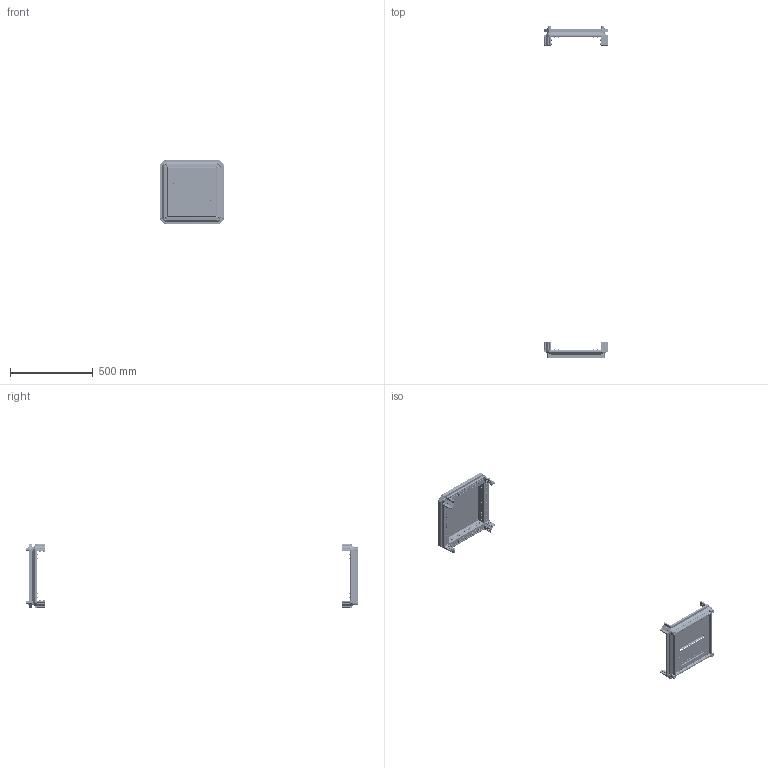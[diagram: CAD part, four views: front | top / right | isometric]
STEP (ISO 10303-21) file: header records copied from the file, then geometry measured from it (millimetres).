
FILE_DESCRIPTION (( 'STEP AP203' ), '1' );
FILE_NAME ('MA1.101.040420.00.00 AleSta-RB44 Êîìïëåêò êðûøà è îñíîâàíèå.STEP', '2025-02-19T13:55:26', ( '' ), ( '' ), 'SwSTEP 2.0', 'SolidWorks 2021', '' );
FILE_SCHEMA (( 'CONFIG_CONTROL_DESIGN' ));
Length unit declared in the file: millimetre
Products named in the file (18): Óïëîòíèòåëü ïàíåëè íèæíåé_400å400; MA1.101.040420.00.00 AleSta-RB44 Êîìïëåêò êðûøà è îñíîâàíèå; Øïèëüêà Ì6õ12_˜¯¨«ìª  Œ6å12; ﾘ琺矜 65ﾃ 019 ﾃﾎﾑﾒ 6402-70_12; Øàéáà ñòîïîðíàÿ ñ íàðóæíûìè çóáöàìè SCHNORR, òèï VS öèíêîâûå õëîïüÿ Ì6 O6,4 ART 88121_Œ6; MA1.101.060620.10.00 Êðûøà 600x600_400å400; ﾇﾀﾊﾋﾅﾏﾊﾀ ﾃﾀﾅﾗﾍﾀﾟ ﾘﾅﾑﾒﾈﾃﾐﾀﾍﾍﾀﾟ ﾑ ﾓﾌﾅﾍﾜﾘﾅﾍﾍﾛﾌ ﾁﾎﾐﾒﾎﾌ M4 X 11 (0.5-2.5 ﾌﾌ) HEX U-S ﾖﾈﾍﾊ; Âèíò ðåçüáîâûäàâëèâàþùèé Ì6õ12 DIN 7500E_Œ6å10; Âèíò_ðåçüáîâûäàâëèâàþùèé_Ì5õ12_DIN 7500E_Œ5å12; MA1.101.060620.20.02 Çàêðûòèå íèæíåé ïàíåëè 600õ600_400å400; MA1.101.060620.20.00 Íèæíÿÿ ïàíåëü 600õ600_400å400; Âèíò ñ âí. øåñòèãðàííèêîì M12 DIN912_•30; ﾘ琺矜 01.019 ﾃﾎﾑﾒ11371-78_12; 7380-2 ISO Âèíòû ñ ïîëóêðóãëîé ãîëîâêîé ñ ôëàíöåì ñ âíóòðåííèì øåñòèãðàííèêîì Ì4õ10; MA1.101.060620.00.02 Ïðîôèëü ïîïåðå÷íûé ñâàðíîé_00 L=298 (˜=400); MA1.100.060620.00.01 Ñîåäèíèòåëü óãëîâîé_00; MA1.101.060620.20.01 Ïîëîòíî íèæíåé ïàíåëè 600õ600_400å400; MA1.101.060620.10.01 Ïîëîòíî êðûøè 600õ600_400å400
Assembly tree (215 placements, depth 3):
  MA1.101.040420.00.00 AleSta-RB44 Êîìïëåêò êðûøà è îñíîâàíèå
    MA1.101.060620.00.02 Ïðîôèëü ïîïåðå÷íûé ñâàðíîé_00 L=298 (˜=400)  x8
    MA1.101.060620.10.00 Êðûøà 600x600_400å400
      MA1.101.060620.10.01 Ïîëîòíî êðûøè 600õ600_400å400
      Øïèëüêà Ì6õ12_˜¯¨«ìª  Œ6å12  x4
      Óïëîòíèòåëü ïàíåëè íèæíåé_400å400
    MA1.101.060620.20.00 Íèæíÿÿ ïàíåëü 600õ600_400å400
      MA1.101.060620.20.01 Ïîëîòíî íèæíåé ïàíåëè 600õ600_400å400
      ﾇﾀﾊﾋﾅﾏﾊﾀ ﾃﾀﾅﾗﾍﾀﾟ ﾘﾅﾑﾒﾈﾃﾐﾀﾍﾍﾀﾟ ﾑ ﾓﾌﾅﾍﾜﾘﾅﾍﾍﾛﾌ ﾁﾎﾐﾒﾎﾌ M4 X 11 (0.5-2.5 ﾌﾌ) HEX U-S ﾖﾈﾍﾊ  x4
      MA1.101.060620.20.02 Çàêðûòèå íèæíåé ïàíåëè 600õ600_400å400  x2
      7380-2 ISO Âèíòû ñ ïîëóêðóãëîé ãîëîâêîé ñ ôëàíöåì ñ âíóòðåííèì øåñòèãðàííèêîì Ì4õ10  x4
    Âèíò_ðåçüáîâûäàâëèâàþùèé_Ì5õ12_DIN 7500E_Œ5å12  x8
    MA1.100.060620.00.01 Ñîåäèíèòåëü óãëîâîé_00  x8
    Âèíò ñ âí. øåñòèãðàííèêîì M12 DIN912_•30  x4
    Âèíò ðåçüáîâûäàâëèâàþùèé Ì6õ12 DIN 7500E_Œ6å10  x80
    ﾘ琺矜 01.019 ﾃﾎﾑﾒ11371-78_12  x4
    ﾘ琺矜 65ﾃ 019 ﾃﾎﾑﾒ 6402-70_12  x4
    Øàéáà ñòîïîðíàÿ ñ íàðóæíûìè çóáöàìè SCHNORR, òèï VS öèíêîâûå õëîïüÿ Ì6 O6,4 ART 88121_Œ6  x80
Bounding box: 392 x 2010.9 x 392 mm (x, y, z)
Volume: 2240516.4 mm3; surface area: 1823316.6 mm2
Topology: 213 solids, 213 shells, 11046 faces, 28264 edges, 17648 vertices
Faces by surface type: plane 8158, cylinder 2072, cone 520, bspline 248, torus 48
Entity records: 47581 total; most frequent: CARTESIAN_POINT 10437, DIRECTION 6196, ORIENTED_EDGE 6058, EDGE_CURVE 3029, LINE 2236, VECTOR 2236, AXIS2_PLACEMENT_3D 1980, VERTEX_POINT 1819
